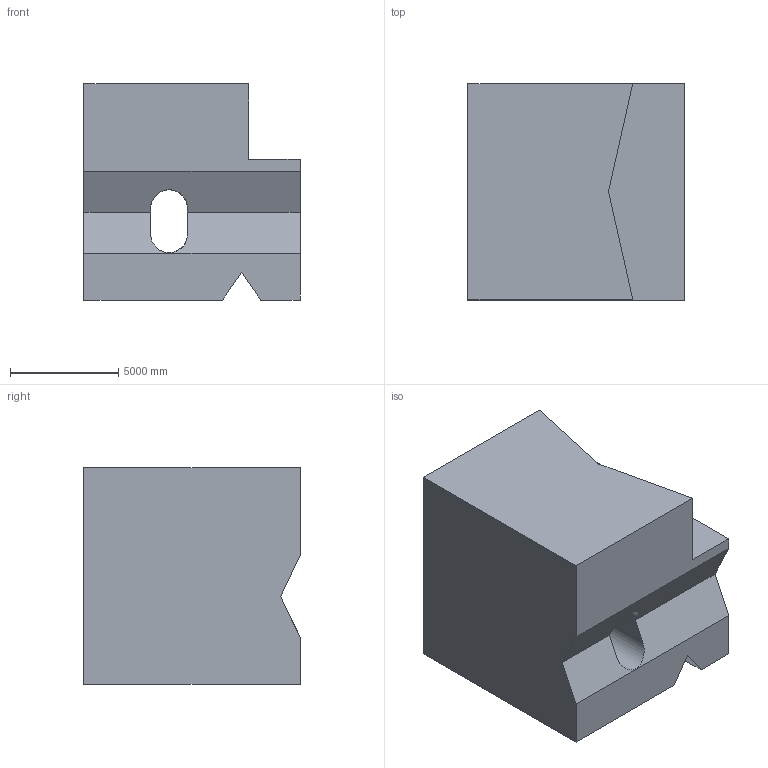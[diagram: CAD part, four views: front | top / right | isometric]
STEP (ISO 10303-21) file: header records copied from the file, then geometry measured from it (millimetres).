
FILE_DESCRIPTION (( 'STEP AP203' ), '1' );
FILE_NAME ('476.STEP', '2022-07-29T11:26:05', ( 'user' ), ( '' ), 'SwSTEP 2.0', 'SolidWorks 2021', '' );
FILE_SCHEMA (( 'CONFIG_CONTROL_DESIGN' ));
Length unit declared in the file: centimetre
Products named in the file (1): 476
Bounding box: 10000 x 10000 x 10000 mm (x, y, z)
Volume: 810529002022.9 mm3; surface area: 664153321.7 mm2
Topology: 1 solids, 1 shells, 25 faces, 75 edges, 50 vertices
Faces by surface type: plane 19, cylinder 6
Entity records: 957 total; most frequent: CARTESIAN_POINT 202, ORIENTED_EDGE 150, DIRECTION 131, EDGE_CURVE 75, VECTOR 61, LINE 61, VERTEX_POINT 50, AXIS2_PLACEMENT_3D 35
